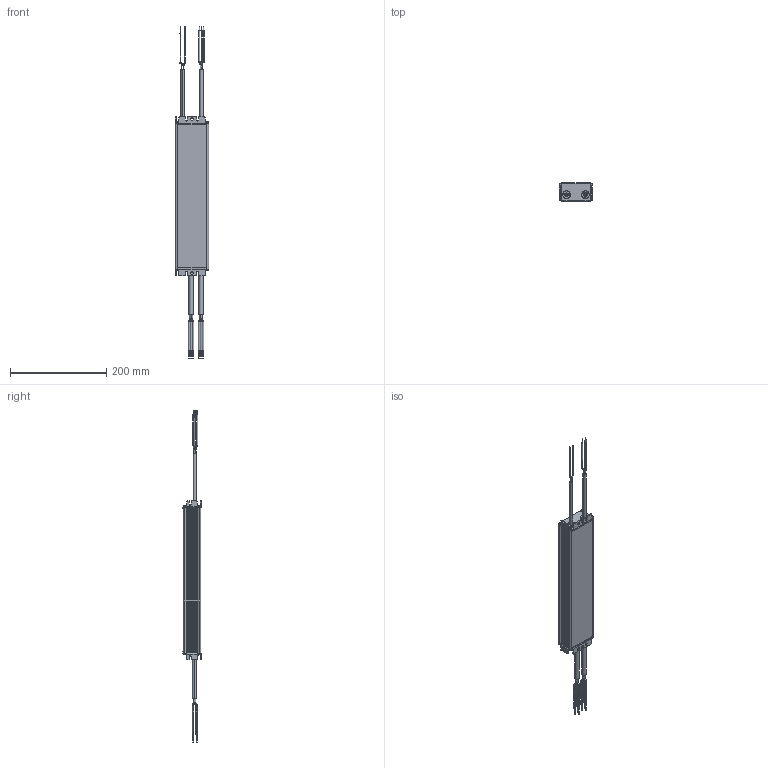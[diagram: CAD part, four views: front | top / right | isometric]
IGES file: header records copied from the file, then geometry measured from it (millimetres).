
Start section: SolidWorks IGES file using analytic representation for surfaces
Global section: file name: C:\Temp\OLQ-batchEngine\queue\temp_\4489877swm000.igs; native system: SolidWorks 2020; preprocessor: SolidWorks 2020; author: SYSTEM; date: 230621.120215; units: millimetre
Bounding box: 69.11 x 37.9 x 688.25 mm (x, y, z)
Surface area: 95322.9 mm2 (no closed solid volume)
Topology: 0 solids, 0 shells, 530 faces, 5382 edges, 5382 vertices
Faces by surface type: bspline 296, revolution 234
